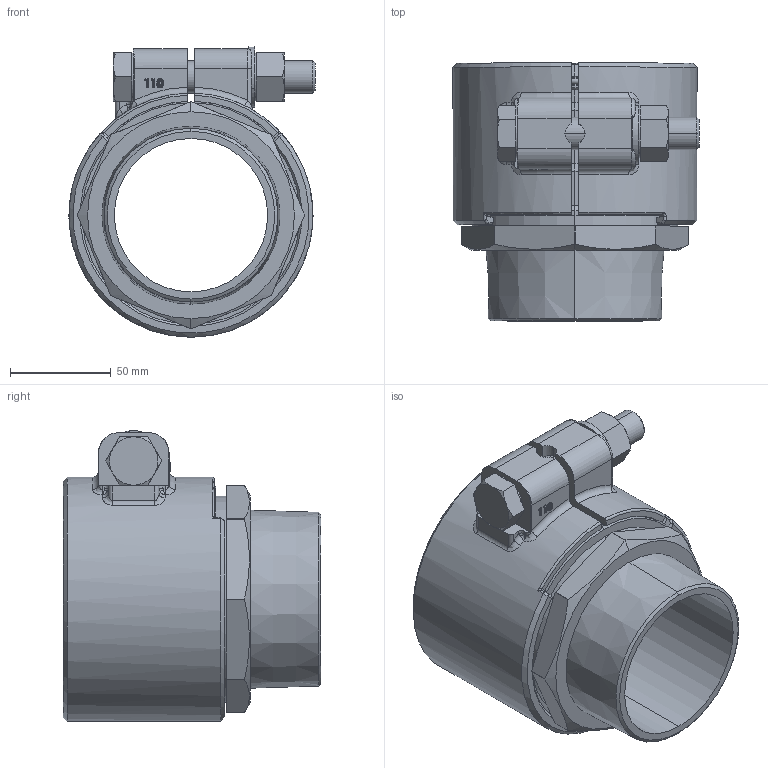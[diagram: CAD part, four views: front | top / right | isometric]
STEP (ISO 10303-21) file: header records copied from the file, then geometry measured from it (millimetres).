
FILE_DESCRIPTION (( 'STEP AP203' ), '1' );
FILE_NAME ('KP_C14-110-90M.step', '2011-08-08T12:03:11', ( '' ), ( '' ), 'SwSTEP 2.0', 'SolidWorks 2011', '' );
FILE_SCHEMA (( 'CONFIG_CONTROL_DESIGN' ));
Length unit declared in the file: millimetre
Products named in the file (1): KP_C14-110-90M
Bounding box: 121.99 x 127.75 x 143.99 mm (x, y, z)
Volume: 449900.3 mm3; surface area: 160799.3 mm2
Topology: 2 solids, 2 shells, 422 faces, 1005 edges, 577 vertices
Faces by surface type: cylinder 148, plane 108, torus 57, bspline 48, cone 39, sphere 22
Entity records: 15032 total; most frequent: CARTESIAN_POINT 5511, DIRECTION 2049, ORIENTED_EDGE 1960, EDGE_CURVE 980, AXIS2_PLACEMENT_3D 845, VERTEX_POINT 577, CIRCLE 470, EDGE_LOOP 441
